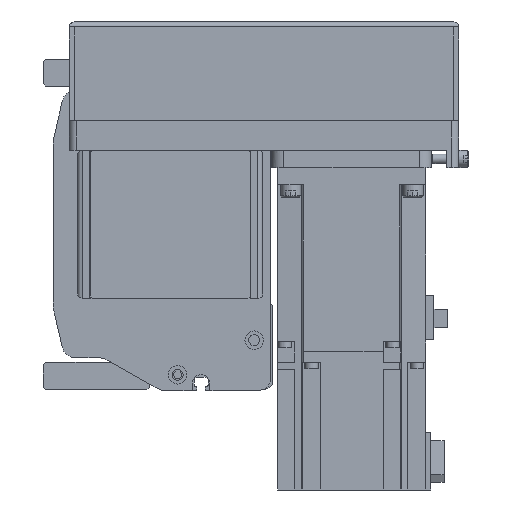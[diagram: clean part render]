
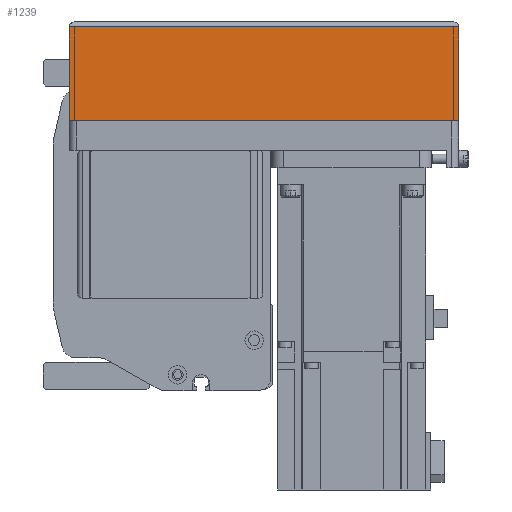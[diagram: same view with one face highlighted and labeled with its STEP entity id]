
A CAD part, left-side view. The second image highlights one B-rep face of the part: STEP entity #1239.
In plain terms, the highlighted planar face has unit normal (-1, 0, 0) as drawn and (0, -1, 0) by its records, which use the part's own axes.
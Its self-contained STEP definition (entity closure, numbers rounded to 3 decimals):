
#1239 = ADVANCED_FACE( '', ( #3361 ), #3362, .T. );
#3361 = FACE_OUTER_BOUND( '', #6679, .T. );
#3362 = PLANE( '', #6680 );
#6679 = EDGE_LOOP( '', ( #10152, #10153, #10154, #10155 ) );
#6680 = AXIS2_PLACEMENT_3D( '', #10156, #10157, #10158 );
#10152 = ORIENTED_EDGE( '', *, *, #19014, .F. );
#10153 = ORIENTED_EDGE( '', *, *, #19015, .F. );
#10154 = ORIENTED_EDGE( '', *, *, #19016, .T. );
#10155 = ORIENTED_EDGE( '', *, *, #19017, .T. );
#10156 = CARTESIAN_POINT( '', ( -158., -39., -12.1 ) );
#10157 = DIRECTION( '', ( 0., -1., 0. ) );
#10158 = DIRECTION( '', ( 0., 0., -1. ) );
#19014 = EDGE_CURVE( '', #22631, #22632, #22633, .T. );
#19015 = EDGE_CURVE( '', #22634, #22631, #22635, .T. );
#19016 = EDGE_CURVE( '', #22634, #22636, #22637, .T. );
#19017 = EDGE_CURVE( '', #22636, #22632, #22638, .T. );
#22631 = VERTEX_POINT( '', #27961 );
#22632 = VERTEX_POINT( '', #27962 );
#22633 = LINE( '', #27963, #27964 );
#22634 = VERTEX_POINT( '', #27965 );
#22635 = LINE( '', #27966, #27967 );
#22636 = VERTEX_POINT( '', #27968 );
#22637 = LINE( '', #27969, #27970 );
#22638 = LINE( '', #27971, #27972 );
#27961 = CARTESIAN_POINT( '', ( 0., -39., -12.1 ) );
#27962 = CARTESIAN_POINT( '', ( 0., -39., -50. ) );
#27963 = CARTESIAN_POINT( '', ( 0., -39., -12.1 ) );
#27964 = VECTOR( '', #35413, 1000. );
#27965 = CARTESIAN_POINT( '', ( -158., -39., -12.1 ) );
#27966 = CARTESIAN_POINT( '', ( -158., -39., -12.1 ) );
#27967 = VECTOR( '', #35414, 1000. );
#27968 = CARTESIAN_POINT( '', ( -158., -39., -50. ) );
#27969 = CARTESIAN_POINT( '', ( -158., -39., -12.1 ) );
#27970 = VECTOR( '', #35415, 1000. );
#27971 = CARTESIAN_POINT( '', ( -158., -39., -50. ) );
#27972 = VECTOR( '', #35416, 1000. );
#35413 = DIRECTION( '', ( 0., 0., -1. ) );
#35414 = DIRECTION( '', ( 1., 0., 0. ) );
#35415 = DIRECTION( '', ( 0., 0., -1. ) );
#35416 = DIRECTION( '', ( 1., 0., 0. ) );
